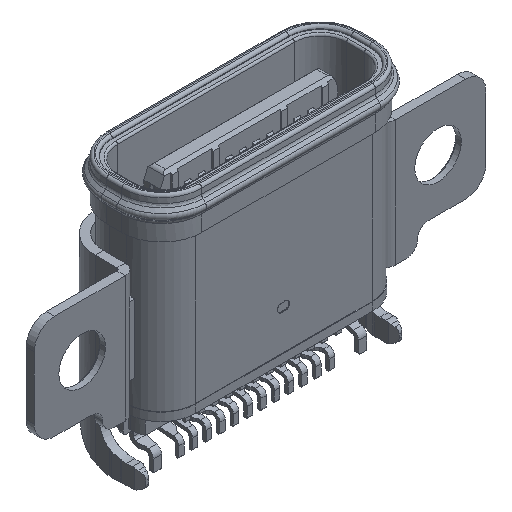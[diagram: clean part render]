
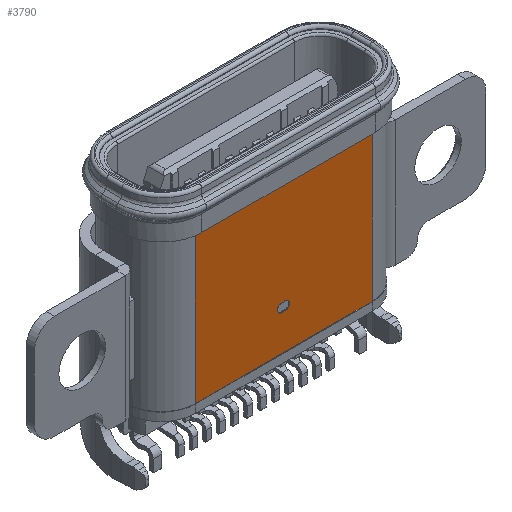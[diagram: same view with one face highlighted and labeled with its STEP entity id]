
A CAD part, isometric view. The second image highlights one B-rep face of the part: STEP entity #3790.
In plain terms, the highlighted planar face has unit normal (0, -1, 0).
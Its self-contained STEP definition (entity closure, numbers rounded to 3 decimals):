
#766 = EDGE_CURVE ( 'NONE', #19462, #15699, #9062, .T. ) ;
#2030 = CARTESIAN_POINT ( 'NONE',  ( -3.23, -3.16, -4.467 ) ) ;
#3790 = ADVANCED_FACE ( 'NONE', ( #30213, #23417 ), #20038, .T. ) ;
#3881 = DIRECTION ( 'NONE',  ( 0., 0., -1. ) ) ;
#4042 = CARTESIAN_POINT ( 'NONE',  ( 3.23, -3.16, 1.003 ) ) ;
#4313 = ORIENTED_EDGE ( 'NONE', *, *, #18527, .T. ) ;
#6048 = CARTESIAN_POINT ( 'NONE',  ( 3.23, -3.16, 1.003 ) ) ;
#6133 = CARTESIAN_POINT ( 'NONE',  ( 3.23, -3.16, -4.467 ) ) ;
#6162 = CARTESIAN_POINT ( 'NONE',  ( 3.23, -3.16, -4.467 ) ) ;
#6913 = VECTOR ( 'NONE', #27874, 1000. ) ;
#7134 = EDGE_LOOP ( 'NONE', ( #34590, #19450, #17886 ) ) ;
#7276 = VERTEX_POINT ( 'NONE', #20872 ) ;
#7586 = CARTESIAN_POINT ( 'NONE',  ( 0.075, -3.16, -3.017 ) ) ;
#8085 = AXIS2_PLACEMENT_3D ( 'NONE', #34498, #33827, #33602 ) ;
#9062 = CIRCLE ( 'NONE', #19210, 0.15 ) ;
#10554 = VECTOR ( 'NONE', #33823, 1000. ) ;
#11613 = ORIENTED_EDGE ( 'NONE', *, *, #42505, .T. ) ;
#11999 = VECTOR ( 'NONE', #26087, 1000. ) ;
#14094 = CARTESIAN_POINT ( 'NONE',  ( -3.23, -3.16, 1.003 ) ) ;
#14266 = LINE ( 'NONE', #4042, #6913 ) ;
#14550 = EDGE_CURVE ( 'NONE', #16770, #7276, #26029, .T. ) ;
#15699 = VERTEX_POINT ( 'NONE', #26957 ) ;
#16692 = EDGE_LOOP ( 'NONE', ( #17548, #11613, #4313, #39569 ) ) ;
#16714 = CARTESIAN_POINT ( 'NONE',  ( -0.075, -3.16, -3.017 ) ) ;
#16770 = VERTEX_POINT ( 'NONE', #39572 ) ;
#17548 = ORIENTED_EDGE ( 'NONE', *, *, #14550, .T. ) ;
#17690 = VECTOR ( 'NONE', #3881, 1000. ) ;
#17886 = ORIENTED_EDGE ( 'NONE', *, *, #766, .F. ) ;
#18527 = EDGE_CURVE ( 'NONE', #34089, #37332, #44260, .T. ) ;
#19210 = AXIS2_PLACEMENT_3D ( 'NONE', #38286, #23804, #23571 ) ;
#19450 = ORIENTED_EDGE ( 'NONE', *, *, #31365, .F. ) ;
#19462 = VERTEX_POINT ( 'NONE', #44604 ) ;
#20038 = PLANE ( 'NONE',  #8085 ) ;
#20872 = CARTESIAN_POINT ( 'NONE',  ( -3.23, -3.16, -4.467 ) ) ;
#21445 = DIRECTION ( 'NONE',  ( 0., -1., 0. ) ) ;
#22167 = CARTESIAN_POINT ( 'NONE',  ( 0., -3.16, -2.888 ) ) ;
#23417 = FACE_OUTER_BOUND ( 'NONE', #16692, .T. ) ;
#23571 = DIRECTION ( 'NONE',  ( -0.5, 0., -0.866 ) ) ;
#23804 = DIRECTION ( 'NONE',  ( 0., -1., 0. ) ) ;
#25708 = AXIS2_PLACEMENT_3D ( 'NONE', #7586, #21445, #35242 ) ;
#26029 = LINE ( 'NONE', #14094, #17690 ) ;
#26087 = DIRECTION ( 'NONE',  ( 1., 0., 0. ) ) ;
#26957 = CARTESIAN_POINT ( 'NONE',  ( 0., -3.16, -3.147 ) ) ;
#27874 = DIRECTION ( 'NONE',  ( -1., 0., 0. ) ) ;
#29030 = LINE ( 'NONE', #2030, #11999 ) ;
#29073 = AXIS2_PLACEMENT_3D ( 'NONE', #16714, #30755, #34385 ) ;
#30213 = FACE_BOUND ( 'NONE', #7134, .T. ) ;
#30755 = DIRECTION ( 'NONE',  ( 0., -1., 0. ) ) ;
#31365 = EDGE_CURVE ( 'NONE', #15699, #33494, #40164, .T. ) ;
#33494 = VERTEX_POINT ( 'NONE', #22167 ) ;
#33602 = DIRECTION ( 'NONE',  ( 0., 0., -1. ) ) ;
#33823 = DIRECTION ( 'NONE',  ( 0., 0., 1. ) ) ;
#33827 = DIRECTION ( 'NONE',  ( 0., -1., 0. ) ) ;
#34089 = VERTEX_POINT ( 'NONE', #6133 ) ;
#34385 = DIRECTION ( 'NONE',  ( -0.5, 0., -0.866 ) ) ;
#34498 = CARTESIAN_POINT ( 'NONE',  ( 3.23, -3.16, 0.633 ) ) ;
#34590 = ORIENTED_EDGE ( 'NONE', *, *, #37210, .F. ) ;
#35242 = DIRECTION ( 'NONE',  ( 0.5, 0., 0.866 ) ) ;
#37210 = EDGE_CURVE ( 'NONE', #33494, #19462, #41393, .T. ) ;
#37332 = VERTEX_POINT ( 'NONE', #6048 ) ;
#38286 = CARTESIAN_POINT ( 'NONE',  ( -0.075, -3.16, -3.017 ) ) ;
#39569 = ORIENTED_EDGE ( 'NONE', *, *, #41672, .T. ) ;
#39572 = CARTESIAN_POINT ( 'NONE',  ( -3.23, -3.16, 1.003 ) ) ;
#40164 = CIRCLE ( 'NONE', #25708, 0.15 ) ;
#41393 = CIRCLE ( 'NONE', #29073, 0.15 ) ;
#41672 = EDGE_CURVE ( 'NONE', #37332, #16770, #14266, .T. ) ;
#42505 = EDGE_CURVE ( 'NONE', #7276, #34089, #29030, .T. ) ;
#44260 = LINE ( 'NONE', #6162, #10554 ) ;
#44604 = CARTESIAN_POINT ( 'NONE',  ( -0.225, -3.16, -3.017 ) ) ;
